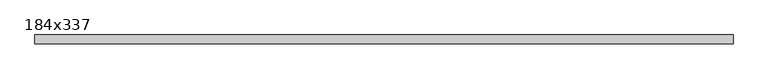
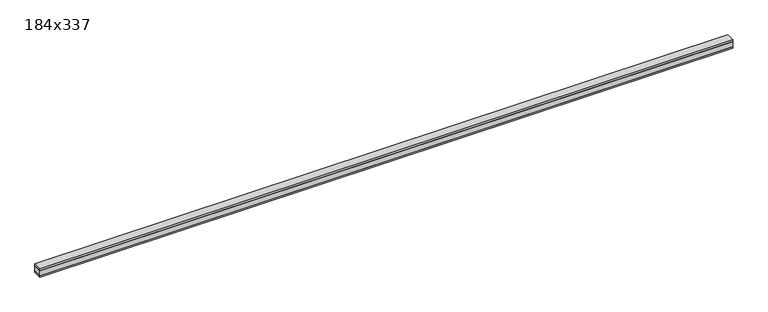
"""IFC4 building model written with IfcOpenShell, lengths in millimetres: beam geometry, ISOVER - Belka RENOVER : 184x337."""

from ifc_helpers import new_model, si_unit, frame, origin, place, context, project, spatial, polyline, outline, extrude, source, transform, mapped, element, save


def beam_184x337_66fae1c3(model_context):
    return source(origin(), model_context, "Body", "SweptSolid", [
        extrude(outline(polyline([(6350.0, 80.0), (6350.0, -80.0), (-6350.0, -80.0), (-6350.0, 80.0), (6350.0, 80.0)])), frame((0.0, 0.0, -53.5), z_axis=(0.0, 0.0, 1.0), x_axis=(1.0, 0.0, 0.0)), (0.0, 0.0, 1.0), 100.0),
        extrude(outline(polyline([(-6350.0, -80.0), (-6350.0, 80.0), (6350.0, 80.0), (6350.0, -80.0), (-6350.0, -80.0)])), frame((0.0, 0.0, -78.5), z_axis=(0.0, 0.0, 1.0), x_axis=(1.0, 0.0, 0.0)), (0.0, 0.0, 1.0), 25.0),
        extrude(outline(polyline([(-6350.0, -80.0), (-6350.0, 80.0), (6350.0, 80.0), (6350.0, -80.0), (-6350.0, -80.0)])), frame((0.0, 0.0, 46.5), z_axis=(0.0, 0.0, 1.0), x_axis=(1.0, 0.0, 0.0)), (0.0, 0.0, 1.0), 32.0),
    ])


if __name__ == "__main__":
    model = new_model("IFC4")
    model_context = context("Model", 3, world=origin())
    ifc_project = project(units=[si_unit("LENGTHUNIT", "METRE", prefix="MILLI")], contexts=[model_context])
    site = spatial("IfcSite", under=ifc_project)
    building = spatial("IfcBuilding", under=site)
    placement = place(None, origin())
    beam_184x337_shape = beam_184x337_66fae1c3(model_context)
    element("IfcBeam", 1, ObjectType="ISOVER - Belka RENOVER : 184x337", at=placement, inside=building, context=model_context, shape_type="MappedRepresentation", body=[
        mapped(beam_184x337_shape, transform((0.0, 0.0, 0.0), x_axis=(1.0, 0.0, 0.0), y_axis=(0.0, 1.0, 0.0), z_axis=(0.0, 0.0, 1.0))),
    ])
    save(model, "model.ifc")
